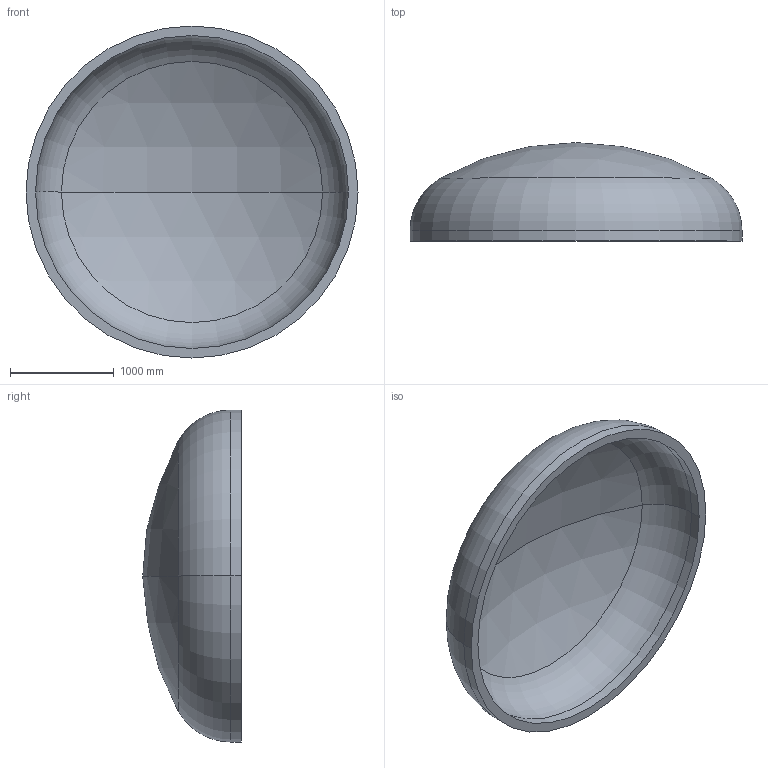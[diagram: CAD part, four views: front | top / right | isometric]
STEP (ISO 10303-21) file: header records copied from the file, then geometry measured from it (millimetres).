
FILE_DESCRIPTION (( 'STEP AP203' ), '1' );
FILE_NAME ('DIN 28013 Korbbogenform_-_Boden DIN 28013 - 3200 x 100 - I - s=92.step', '2016-07-01T18:55:51', ( '' ), ( '' ), 'SwSTEP 2.0', 'SolidWorks 2013', '' );
FILE_SCHEMA (( 'CONFIG_CONTROL_DESIGN' ));
Length unit declared in the file: millimetre
Products named in the file (1): DIN 28013 Korbbogenform_-_Boden DIN 28013 - 3200 x 100 - I - s=92
Bounding box: 3200 x 949.62 x 3200 mm (x, y, z)
Volume: 1075653955 mm3; surface area: 24299795.2 mm2
Topology: 1 solids, 1 shells, 13 faces, 24 edges, 14 vertices
Faces by surface type: torus 4, cylinder 4, sphere 4, plane 1
Entity records: 407 total; most frequent: DIRECTION 72, CARTESIAN_POINT 52, ORIENTED_EDGE 48, AXIS2_PLACEMENT_3D 34, EDGE_CURVE 24, CIRCLE 20, EDGE_LOOP 14, VERTEX_POINT 14
